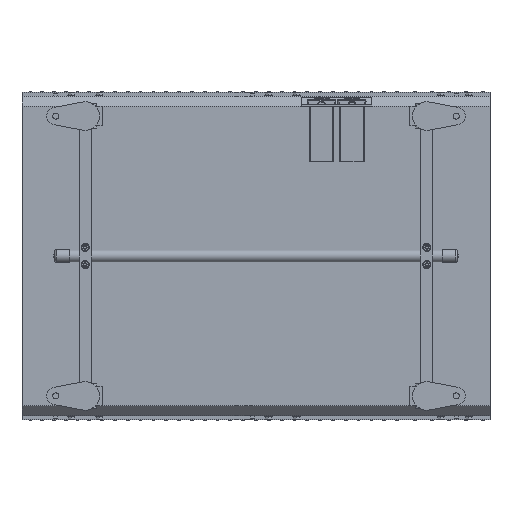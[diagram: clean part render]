
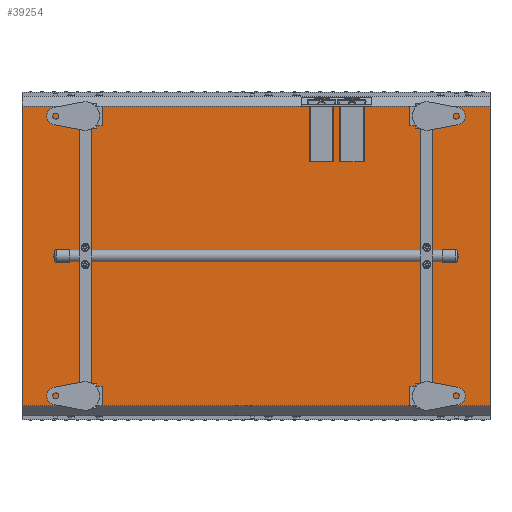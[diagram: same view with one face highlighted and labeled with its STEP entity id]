
A CAD part, front view. The second image highlights one B-rep face of the part: STEP entity #39254.
In plain terms, the highlighted planar face has unit normal (0, -1, 0).
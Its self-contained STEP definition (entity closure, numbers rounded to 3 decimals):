
#1233 = AXIS2_PLACEMENT_3D ( 'NONE', #13277, #30903, #39745 ) ;
#2943 = FACE_OUTER_BOUND ( 'NONE', #33656, .T. ) ;
#4805 = CARTESIAN_POINT ( 'NONE',  ( 1000., -215.213, 319.787 ) ) ;
#5163 = CARTESIAN_POINT ( 'NONE',  ( 1000., -215.213, -319.787 ) ) ;
#6830 = CARTESIAN_POINT ( 'NONE',  ( 1720.933, -215.213, 319.787 ) ) ;
#11755 = EDGE_CURVE ( 'NONE', #56326, #22319, #25885, .T. ) ;
#13277 = CARTESIAN_POINT ( 'NONE',  ( 1720.933, -215.213, 319.787 ) ) ;
#14752 = EDGE_CURVE ( 'NONE', #34330, #20178, #15654, .T. ) ;
#15654 = LINE ( 'NONE', #42490, #41617 ) ;
#17940 = EDGE_CURVE ( 'NONE', #22319, #20178, #54656, .T. ) ;
#18828 = CARTESIAN_POINT ( 'NONE',  ( 1000., -215.213, 319.787 ) ) ;
#19424 = CARTESIAN_POINT ( 'NONE',  ( 0., -215.213, -319.787 ) ) ;
#19580 = DIRECTION ( 'NONE',  ( -1., 0., 0. ) ) ;
#20178 = VERTEX_POINT ( 'NONE', #19424 ) ;
#20948 = EDGE_CURVE ( 'NONE', #34330, #56326, #31883, .T. ) ;
#22319 = VERTEX_POINT ( 'NONE', #28207 ) ;
#22648 = DIRECTION ( 'NONE',  ( 0., 0., 1. ) ) ;
#25740 = ORIENTED_EDGE ( 'NONE', *, *, #17940, .T. ) ;
#25885 = LINE ( 'NONE', #6830, #35019 ) ;
#28207 = CARTESIAN_POINT ( 'NONE',  ( 0., -215.213, 319.787 ) ) ;
#30903 = DIRECTION ( 'NONE',  ( 0., 1., 0. ) ) ;
#31883 = LINE ( 'NONE', #4805, #45262 ) ;
#33656 = EDGE_LOOP ( 'NONE', ( #37505, #48278, #44009, #25740 ) ) ;
#34330 = VERTEX_POINT ( 'NONE', #5163 ) ;
#35019 = VECTOR ( 'NONE', #19580, 1000. ) ;
#37505 = ORIENTED_EDGE ( 'NONE', *, *, #14752, .F. ) ;
#39254 = ADVANCED_FACE ( 'NONE', ( #2943 ), #53274, .F. ) ;
#39745 = DIRECTION ( 'NONE',  ( 0., 0., 1. ) ) ;
#41338 = VECTOR ( 'NONE', #41485, 1000. ) ;
#41485 = DIRECTION ( 'NONE',  ( 0., 0., -1. ) ) ;
#41617 = VECTOR ( 'NONE', #56201, 1000. ) ;
#41676 = CARTESIAN_POINT ( 'NONE',  ( 0., -215.213, 319.787 ) ) ;
#42490 = CARTESIAN_POINT ( 'NONE',  ( 1000., -215.213, -319.787 ) ) ;
#44009 = ORIENTED_EDGE ( 'NONE', *, *, #11755, .T. ) ;
#45262 = VECTOR ( 'NONE', #22648, 1000. ) ;
#48278 = ORIENTED_EDGE ( 'NONE', *, *, #20948, .T. ) ;
#53274 = PLANE ( 'NONE',  #1233 ) ;
#54656 = LINE ( 'NONE', #41676, #41338 ) ;
#56201 = DIRECTION ( 'NONE',  ( -1., 0., 0. ) ) ;
#56326 = VERTEX_POINT ( 'NONE', #18828 ) ;
